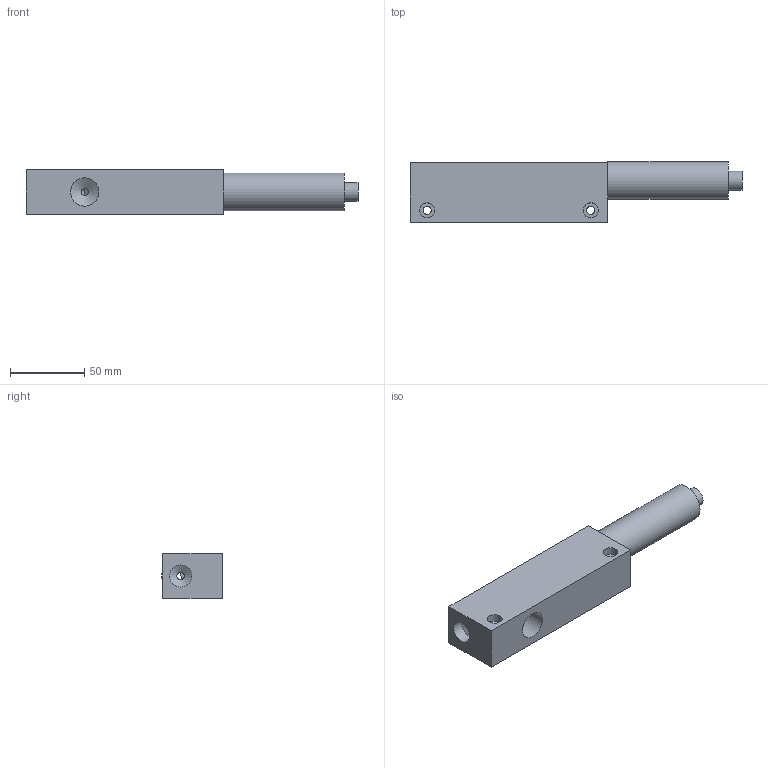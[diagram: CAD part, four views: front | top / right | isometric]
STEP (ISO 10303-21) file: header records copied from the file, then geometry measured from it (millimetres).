
FILE_DESCRIPTION (( 'STEP AP214' ), '1' );
FILE_NAME ('SSV-825.STEP', '2025-09-15T17:31:51', ( '' ), ( '' ), 'SwSTEP 2.0', 'SolidWorks 2025', '' );
FILE_SCHEMA (( 'AUTOMOTIVE_DESIGN' ));
Length unit declared in the file: inch
Products named in the file (3): GS-ST38; SSV-825; SSV-750
Assembly tree (2 placements, depth 2):
  SSV-825
    SSV-750
    GS-ST38
Bounding box: 223.2 x 40.7 x 30 mm (x, y, z)
Volume: 177240.4 mm3; surface area: 38226.9 mm2
Topology: 2 solids, 2 shells, 51 faces, 101 edges, 59 vertices
Faces by surface type: cylinder 19, cone 18, plane 14
Full cylindrical faces by diameter (mm): 5 x2, 5.5 x2, 10 x2, 11 x2, 12.7 x2, 14.3 x5, 14.95 x1, 15.25 x1, 19 x1, 25.4 x1
Entity records: 1222 total; most frequent: DIRECTION 220, CARTESIAN_POINT 182, ORIENTED_EDGE 124, EDGE_LOOP 104, AXIS2_PLACEMENT_3D 104, FACE_OUTER_BOUND 70, EDGE_CURVE 62, VERTEX_POINT 58
